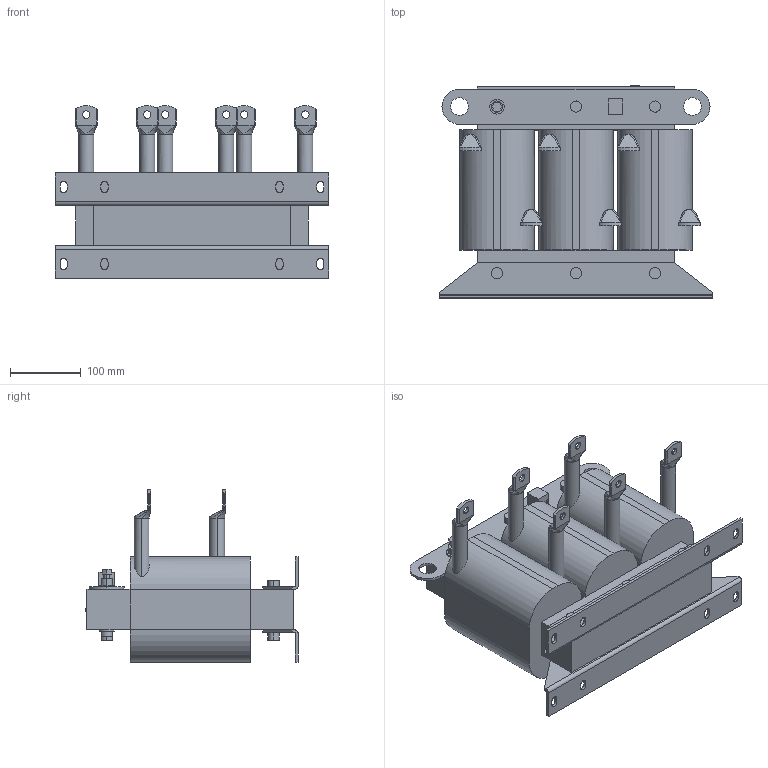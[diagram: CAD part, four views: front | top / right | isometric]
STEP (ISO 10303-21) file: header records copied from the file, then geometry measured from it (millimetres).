
FILE_DESCRIPTION (( 'STEP AP214' ), '1' );
FILE_NAME ('00Z1FX4-0028.STEP', '2022-08-11T10:26:17', ( '' ), ( '' ), 'SwSTEP 2.0', 'SolidWorks 2022', '' );
FILE_SCHEMA (( 'AUTOMOTIVE_DESIGN' ));
Length unit declared in the file: centimetre
Products named in the file (1): 00Z1FX4-0028
Bounding box: 388 x 300.72 x 245.16 mm (x, y, z)
Volume: 9602701.1 mm3; surface area: 543574.2 mm2
Topology: 1 solids, 1 shells, 387 faces, 1006 edges, 646 vertices
Faces by surface type: plane 184, cylinder 142, bspline 61
Entity records: 16075 total; most frequent: CARTESIAN_POINT 6769, ORIENTED_EDGE 2012, DIRECTION 1634, EDGE_CURVE 1006, VERTEX_POINT 646, AXIS2_PLACEMENT_3D 563, VECTOR 508, LINE 508
